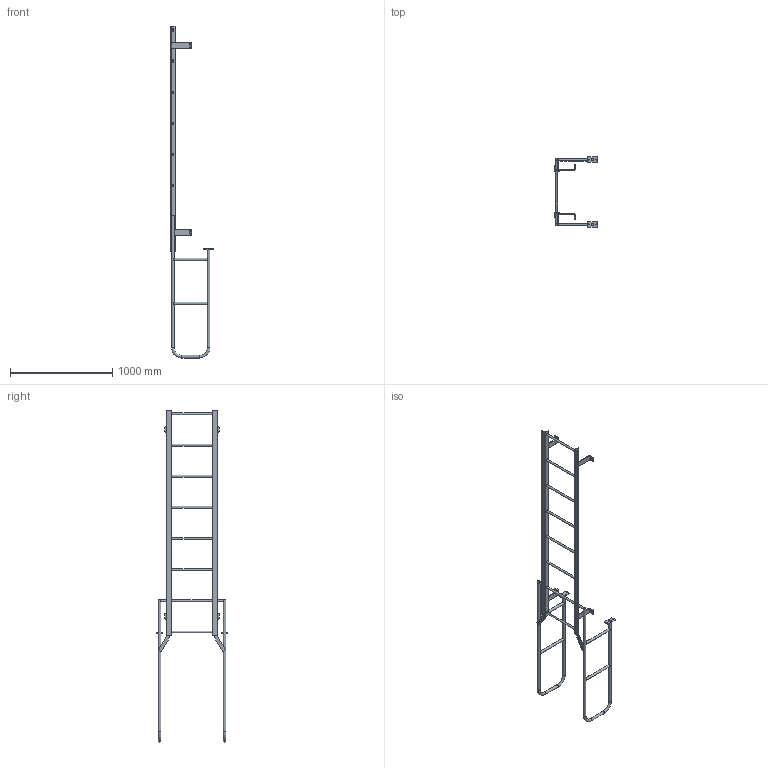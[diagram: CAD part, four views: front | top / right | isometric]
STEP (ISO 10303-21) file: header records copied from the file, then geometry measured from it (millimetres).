
FILE_DESCRIPTION(/* description */ (''),/* implementation_level */ '2;1');
FILE_NAME(/* name */ 'P:\MIKEL & KAREN\3570226 F8W SIMPLIFIED PART .stp',/* time_stamp */ '2018-07-02T15:44:59-04:00',/* author */ ('stephanie'),/* organization */ (''),/* preprocessor_version */ 'ST-DEVELOPER v16.1',/* originating_system */ 'Autodesk Inventor 2016',/* authorisation */ '');
FILE_SCHEMA (('AUTOMOTIVE_DESIGN { 1 0 10303 214 3 1 1 }'));
Length unit declared in the file: centimetre
Products named in the file (1): 3570226 F8W SIMPLIFIED PART 
Bounding box: 425.58 x 685.8 x 3248.03 mm (x, y, z)
Volume: 4961094.4 mm3; surface area: 2257671.8 mm2
Topology: 16 solids, 16 shells, 234 faces, 598 edges, 390 vertices
Faces by surface type: plane 121, cylinder 105, torus 8
Full cylindrical faces by diameter (mm): 10.319 x4, 14.287 x4, 19.05 x8, 22.098 x10, 22.225 x16, 25.4 x10
Entity records: 7339 total; most frequent: CARTESIAN_POINT 1513, DIRECTION 1188, ORIENTED_EDGE 1036, EDGE_CURVE 512, AXIS2_PLACEMENT_3D 457, VERTEX_POINT 366, EDGE_LOOP 350, LINE 274
